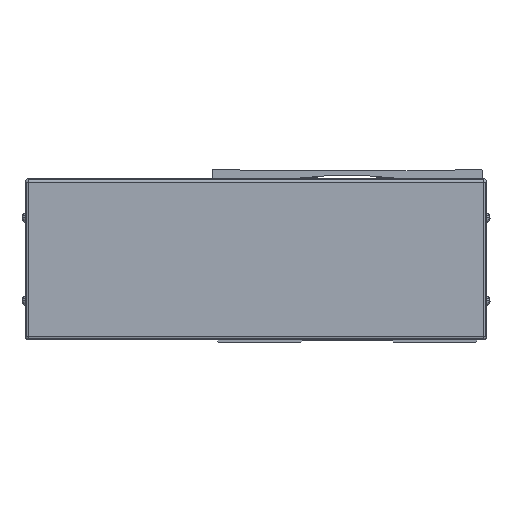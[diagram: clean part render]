
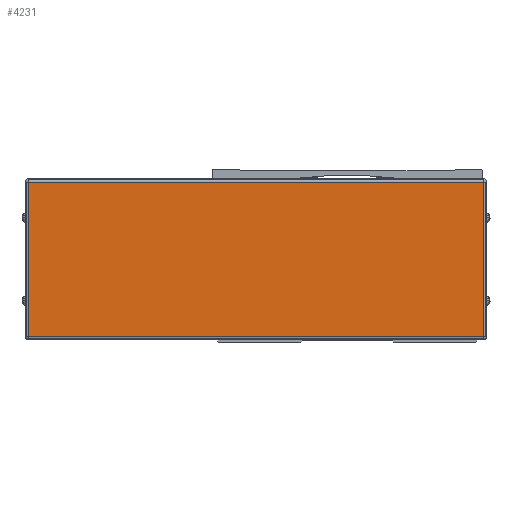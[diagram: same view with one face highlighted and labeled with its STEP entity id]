
A CAD part, front view. The second image highlights one B-rep face of the part: STEP entity #4231.
In plain terms, the highlighted planar face has unit normal (0, -1, 0).
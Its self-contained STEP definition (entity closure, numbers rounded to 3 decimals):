
#4231=ADVANCED_FACE('',(#9240),#9241,.F.);
#9240=FACE_OUTER_BOUND('',#16678,.T.);
#9241=PLANE('',#16679);
#16678=EDGE_LOOP('',(#29493,#29494,#29495,#29496));
#16679=AXIS2_PLACEMENT_3D('',#29497,#29498,#29499);
#29493=ORIENTED_EDGE('',*,*,#41154,.T.);
#29494=ORIENTED_EDGE('',*,*,#41800,.T.);
#29495=ORIENTED_EDGE('',*,*,#42166,.T.);
#29496=ORIENTED_EDGE('',*,*,#37234,.T.);
#29497=CARTESIAN_POINT('',(-655.,252.222,-2.));
#29498=DIRECTION('',(0.,1.0,0.));
#29499=DIRECTION('',(-1.0,0.,0.));
#37234=EDGE_CURVE('',#44095,#44093,#44096,.T.);
#41154=EDGE_CURVE('',#44093,#45074,#50519,.T.);
#41800=EDGE_CURVE('',#45074,#50546,#51426,.T.);
#42166=EDGE_CURVE('',#50546,#44095,#51921,.T.);
#44093=VERTEX_POINT('',#54159);
#44095=VERTEX_POINT('',#54161);
#44096=LINE('',#54162,#54163);
#45074=VERTEX_POINT('',#55509);
#50519=LINE('',#63558,#63559);
#50546=VERTEX_POINT('',#63595);
#51426=LINE('',#64967,#64968);
#51921=LINE('',#65697,#65698);
#54159=CARTESIAN_POINT('',(-517.9,252.222,44.5));
#54161=CARTESIAN_POINT('',(-517.9,252.222,-48.5));
#54162=CARTESIAN_POINT('',(-517.9,252.222,-2.));
#54163=VECTOR('',#68924,10.0);
#55509=CARTESIAN_POINT('',(-792.1,252.222,44.5));
#63558=CARTESIAN_POINT('',(-655.,252.222,44.5));
#63559=VECTOR('',#73878,10.0);
#63595=CARTESIAN_POINT('',(-792.1,252.222,-48.5));
#64967=CARTESIAN_POINT('',(-792.1,252.222,-2.));
#64968=VECTOR('',#74605,10.0);
#65697=CARTESIAN_POINT('',(-655.,252.222,-48.5));
#65698=VECTOR('',#74999,10.0);
#68924=DIRECTION('',(0.,0.,1.0));
#73878=DIRECTION('',(-1.0,0.,0.));
#74605=DIRECTION('',(0.,0.,-1.0));
#74999=DIRECTION('',(1.0,0.,0.));
